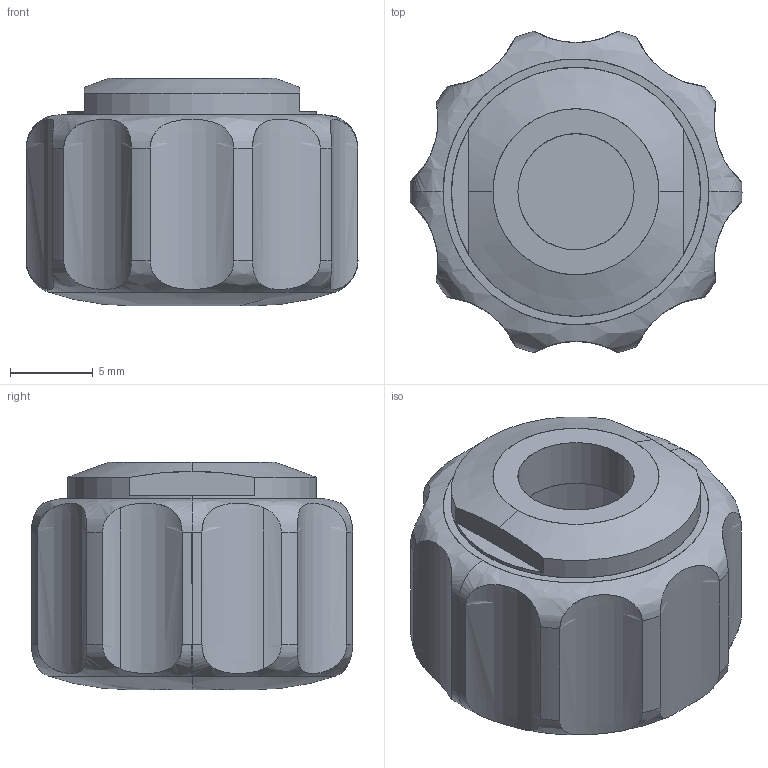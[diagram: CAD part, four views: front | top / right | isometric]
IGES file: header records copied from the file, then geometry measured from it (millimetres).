
Start section: SolidWorks IGES file using analytic representation for surfaces
Global section: file name: C:\Users\ThinkStation\Desktop\Dummys Easyknob\Easyknob Dummy M6.igs; native system: SolidWorks 2015; preprocessor: SolidWorks 2015; author: ThinkStation; date: 150122.104058; units: millimetre
Bounding box: 20 x 19.36 x 13.7 mm (x, y, z)
Surface area: 1862.9 mm2 (no closed solid volume)
Topology: 0 solids, 0 shells, 46 faces, 1016 edges, 1016 vertices
Faces by surface type: revolution 31, bspline 15
